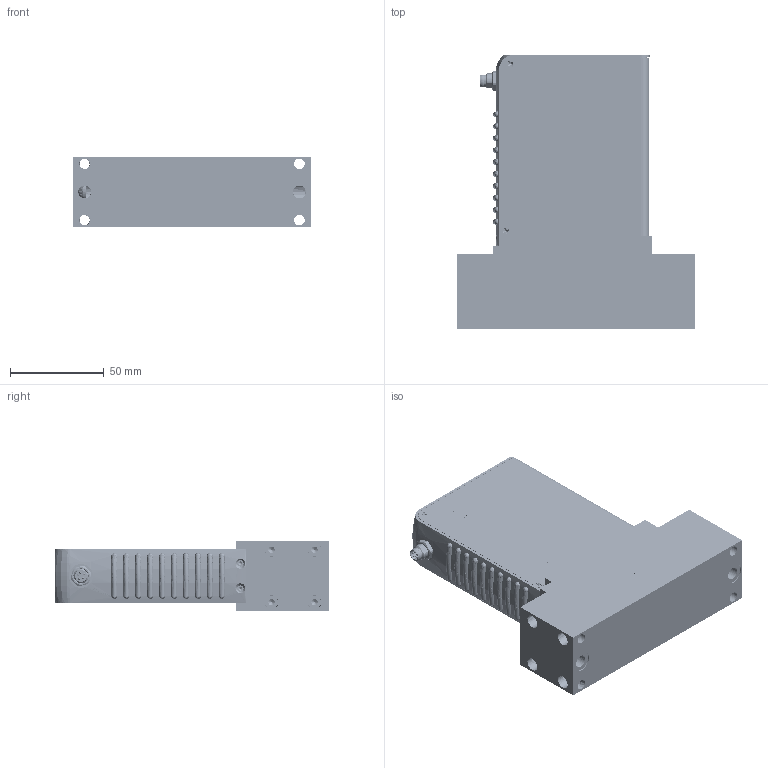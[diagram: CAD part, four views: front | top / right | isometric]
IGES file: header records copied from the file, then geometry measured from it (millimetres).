
Start section: SolidWorks IGES file using analytic representation for surfaces
Global section: file name: G:\Engineering\CAD MODELS FOR SALES\CAD MODEL STORAGE\GF\GF101-121-126\CUSTOMER FILES\IGES\GF101-GF121-GF126-C2-E0.IGS; native system: SolidWorks 2020; preprocessor: SolidWorks 2020; author: CFehr; date: 220630.091016; units: inch
Bounding box: 127 x 146.05 x 37.59 mm (x, y, z)
Volume: 212471.5 mm3; surface area: 111719.4 mm2
Topology: 148 solids, 148 shells, 8447 faces, 28021 edges, 19905 vertices
Faces by surface type: plane 4936, revolution 2465, bspline 1046
